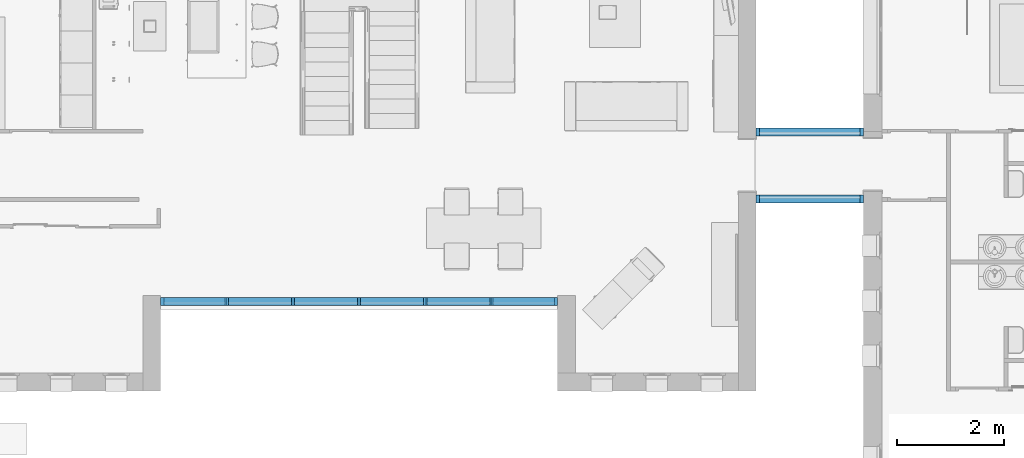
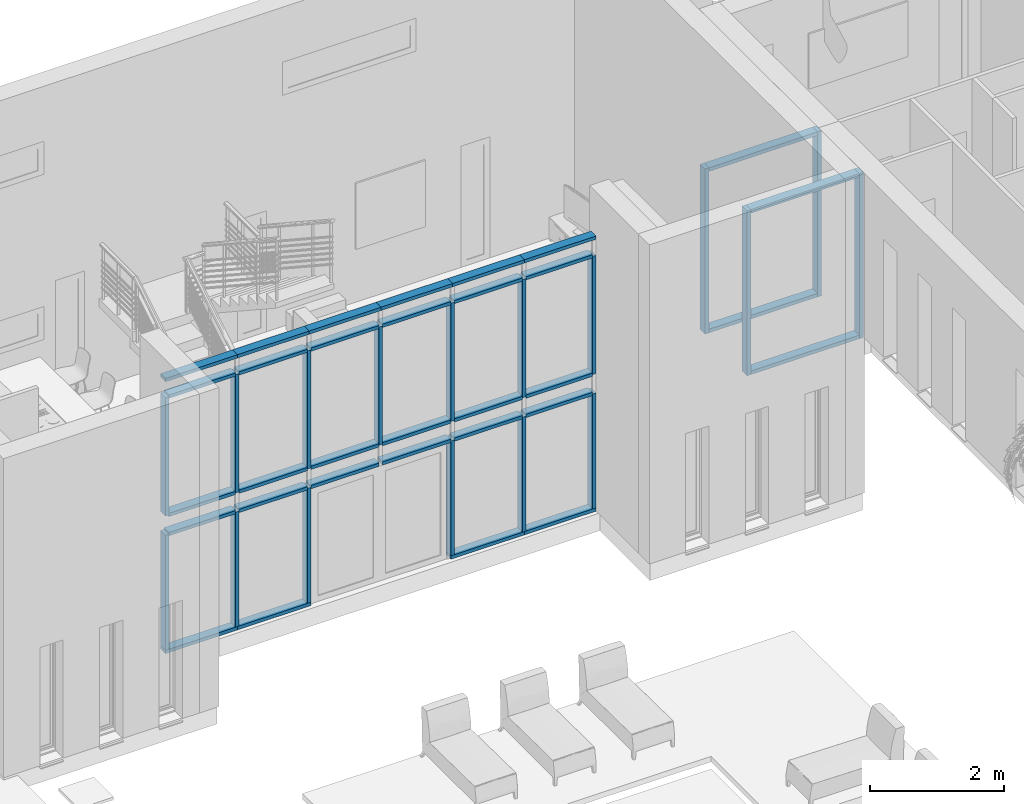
# One storey, part 1 of 40: 49 members, 3 elements without a shape of their own.
"""IFC2X3 building model written with IfcOpenShell, lengths in metres."""

from ifc_helpers import new_model, entity, si_unit, converted_unit, derived_unit, direction, frame, origin, origin_2d_with_axis, place, context, subcontext, project, spatial, rectangle, extrude, source, transform, mapped, material, type_object, type_shapes, element, aggregate, save


model = new_model("IFC2X3")

# Units and contexts
model_context = context("Model", 3, precision=1e-05, world=origin(), true_north=direction((6.12303176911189e-17, 1.0)))
body_context = subcontext(model_context, "Body", "Model", "MODEL_VIEW")
ifc_project = project(units=[si_unit("LENGTHUNIT", "METRE"), si_unit("AREAUNIT", "SQUARE_METRE"), si_unit("VOLUMEUNIT", "CUBIC_METRE"), converted_unit("PLANEANGLEUNIT", "DEGREE", entity("IfcRatioMeasure", 0.0174532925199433), si_unit("PLANEANGLEUNIT", "RADIAN"), dimensions=[0, 0, 0, 0, 0, 0, 0]), si_unit("MASSUNIT", "GRAM", prefix="KILO"), derived_unit("MASSDENSITYUNIT", [(si_unit("MASSUNIT", "GRAM", prefix="KILO"), 1), (si_unit("LENGTHUNIT", "METRE"), -3)]), si_unit("TIMEUNIT", "SECOND"), si_unit("FREQUENCYUNIT", "HERTZ"), si_unit("THERMODYNAMICTEMPERATUREUNIT", "DEGREE_CELSIUS"), derived_unit("THERMALTRANSMITTANCEUNIT", [(si_unit("MASSUNIT", "GRAM", prefix="KILO"), 1), (si_unit("THERMODYNAMICTEMPERATUREUNIT", "KELVIN"), -1), (si_unit("TIMEUNIT", "SECOND"), -3)]), derived_unit("VOLUMETRICFLOWRATEUNIT", [(si_unit("LENGTHUNIT", "METRE"), 3), (si_unit("TIMEUNIT", "SECOND"), -1)]), si_unit("ELECTRICCURRENTUNIT", "AMPERE"), si_unit("ELECTRICVOLTAGEUNIT", "VOLT"), si_unit("POWERUNIT", "WATT"), si_unit("FORCEUNIT", "NEWTON", prefix="KILO"), si_unit("ILLUMINANCEUNIT", "LUX"), si_unit("LUMINOUSFLUXUNIT", "LUMEN"), si_unit("LUMINOUSINTENSITYUNIT", "CANDELA"), derived_unit("USERDEFINED", [(si_unit("MASSUNIT", "GRAM", prefix="KILO"), -1), (si_unit("LENGTHUNIT", "METRE"), -2), (si_unit("TIMEUNIT", "SECOND"), 3), (si_unit("LUMINOUSFLUXUNIT", "LUMEN"), 1)]), derived_unit("LINEARVELOCITYUNIT", [(si_unit("LENGTHUNIT", "METRE"), 1), (si_unit("TIMEUNIT", "SECOND"), -1)]), si_unit("PRESSUREUNIT", "PASCAL"), derived_unit("USERDEFINED", [(si_unit("LENGTHUNIT", "METRE"), -2), (si_unit("MASSUNIT", "GRAM", prefix="KILO"), 1), (si_unit("TIMEUNIT", "SECOND"), -2)])], contexts=[model_context])

# Site, building, storey
site_placement = place(None, origin())
site = spatial("IfcSite", under=ifc_project, at=site_placement, Name="Surface", CompositionType="ELEMENT")
building_placement = place(site_placement, origin())
building = spatial("IfcBuilding", under=site, at=building_placement, CompositionType="ELEMENT")
storey_placement = place(building_placement, origin())
storey = spatial("IfcBuildingStorey", under=building, at=storey_placement, Name="RDC", CompositionType="ELEMENT", Elevation=-1.0941605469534e-13)

# Curtain wall, members
curtain_wall_type_1 = type_object("IfcCurtainWallType", Name="Mur-rideau:Simple panneau", PredefinedType="NOTDEFINED")
curtain_wall_1_placement = place(storey_placement, origin())
curtain_wall_1 = element("IfcCurtainWall", 1, at=curtain_wall_1_placement, inside=storey, type_object=curtain_wall_type_1, Name="Mur-rideau:Simple panneau", ObjectType="Mur-rideau:Simple panneau")
ifc_material = material(Name="Plastique, blanc opaque")
member_type_1 = type_object("IfcMemberType", Name="80 x 150", PredefinedType="MEMBER")
shared_shape_1 = source(origin(), body_context, "Body", "SweptSolid", [
    extrude(rectangle(XDim=0.15, YDim=0.06, at=origin_2d_with_axis()), frame((-0.03, 0.0, -2.15), z_axis=(0.0, 0.0, 1.0), x_axis=(0.0, -1.0, 0.0)), (0.0, 0.0, 1.0), 2.15),
])
type_shapes(member_type_1, [shared_shape_1])
member_1_placement = place(storey_placement, frame((-1.3024888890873, 1.13701067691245, 4.64999999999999), z_axis=(0.0, 0.0, 1.0), x_axis=(-1.0, 0.0, 0.0)))
member_1 = element("IfcMember", 2, at=member_1_placement, type_object=member_type_1, material=ifc_material, Name="Meneau rectangulaire:80 x 150", ObjectType="80 x 150", context=body_context, shape_type="MappedRepresentation", body=[
    mapped(shared_shape_1, transform((0.0, 0.0, 0.0), scale=1.0)),
])
member_type_2 = type_object("IfcMemberType", Name="80 x 150", PredefinedType="MEMBER")
shared_shape_2 = source(origin(), body_context, "Body", "SweptSolid", [
    extrude(rectangle(XDim=0.15, YDim=0.06, at=origin_2d_with_axis()), frame((-0.03, 0.0, -2.09), z_axis=(0.0, 0.0, 1.0), x_axis=(0.0, -1.0, 0.0)), (0.0, 0.0, 1.0), 2.09),
])
type_shapes(member_type_2, [shared_shape_2])
member_2_placement = place(storey_placement, frame((-1.3024888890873, 1.13701067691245, 2.14999999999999), z_axis=(0.0, 0.0, 1.0), x_axis=(-1.0, 0.0, 0.0)))
member_2 = element("IfcMember", 3, at=member_2_placement, type_object=member_type_2, material=ifc_material, Name="Meneau rectangulaire:80 x 150", ObjectType="80 x 150", context=body_context, shape_type="MappedRepresentation", body=[
    mapped(shared_shape_2, transform((0.0, 0.0, 0.0), scale=1.0)),
])
member_type_3 = type_object("IfcMemberType", Name="80 x 150", PredefinedType="MEMBER")
shared_shape_3 = source(origin(), body_context, "Body", "SweptSolid", [
    extrude(rectangle(XDim=0.15, YDim=0.06, at=origin_2d_with_axis()), frame((0.0, 0.0, -2.15), z_axis=(0.0, 0.0, 1.0), x_axis=(0.0, -1.0, 0.0)), (0.0, 0.0, 1.0), 2.15),
])
type_shapes(member_type_3, [shared_shape_3])
member_3_placement = place(storey_placement, frame((-0.0691555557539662, 1.13701067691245, 2.49999999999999), z_axis=(0.0, 0.0, -1.0), x_axis=(1.0, 0.0, 0.0)))
member_3 = element("IfcMember", 4, at=member_3_placement, type_object=member_type_3, material=ifc_material, Name="Meneau rectangulaire:80 x 150", ObjectType="80 x 150", context=body_context, shape_type="MappedRepresentation", body=[
    mapped(shared_shape_3, transform((0.0, 0.0, 0.0), scale=1.0)),
])
member_4_placement = place(storey_placement, frame((1.16417777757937, 1.13701067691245, 2.49999999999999), z_axis=(0.0, 0.0, -1.0), x_axis=(1.0, 0.0, 0.0)))
member_4 = element("IfcMember", 5, at=member_4_placement, type_object=member_type_3, material=ifc_material, Name="Meneau rectangulaire:80 x 150", ObjectType="80 x 150", context=body_context, shape_type="MappedRepresentation", body=[
    mapped(shared_shape_3, transform((0.0, 0.0, 0.0), scale=1.0)),
])
member_5_placement = place(storey_placement, frame((2.3975111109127, 1.13701067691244, 2.49999999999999), z_axis=(0.0, 0.0, -1.0), x_axis=(1.0, 0.0, 0.0)))
member_5 = element("IfcMember", 6, at=member_5_placement, type_object=member_type_3, material=ifc_material, Name="Meneau rectangulaire:80 x 150", ObjectType="80 x 150", context=body_context, shape_type="MappedRepresentation", body=[
    mapped(shared_shape_3, transform((0.0, 0.0, 0.0), scale=1.0)),
])
member_6_placement = place(storey_placement, frame((3.63084444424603, 1.13701067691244, 2.49999999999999), z_axis=(0.0, 0.0, -1.0), x_axis=(1.0, 0.0, 0.0)))
member_6 = element("IfcMember", 7, at=member_6_placement, type_object=member_type_3, material=ifc_material, Name="Meneau rectangulaire:80 x 150", ObjectType="80 x 150", context=body_context, shape_type="MappedRepresentation", body=[
    mapped(shared_shape_3, transform((0.0, 0.0, 0.0), scale=1.0)),
])
member_7_placement = place(storey_placement, frame((4.86417777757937, 1.13701067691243, 2.49999999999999), z_axis=(0.0, 0.0, -1.0), x_axis=(1.0, 0.0, 0.0)))
member_7 = element("IfcMember", 8, at=member_7_placement, type_object=member_type_3, material=ifc_material, Name="Meneau rectangulaire:80 x 150", ObjectType="80 x 150", context=body_context, shape_type="MappedRepresentation", body=[
    mapped(shared_shape_3, transform((0.0, 0.0, 0.0), scale=1.0)),
])
member_type_4 = type_object("IfcMemberType", Name="80 x 150", PredefinedType="MEMBER")
shared_shape_4 = source(origin(), body_context, "Body", "SweptSolid", [
    extrude(rectangle(XDim=0.15, YDim=0.06, at=origin_2d_with_axis()), frame((0.0, 0.0, -2.09), z_axis=(0.0, 0.0, 1.0), x_axis=(0.0, -1.0, 0.0)), (0.0, 0.0, 1.0), 2.09),
])
type_shapes(member_type_4, [shared_shape_4])
member_8_placement = place(storey_placement, frame((-0.0691555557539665, 1.13701067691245, 0.0599999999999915), z_axis=(0.0, 0.0, -1.0), x_axis=(1.0, 0.0, 0.0)))
member_8 = element("IfcMember", 9, at=member_8_placement, type_object=member_type_4, material=ifc_material, Name="Meneau rectangulaire:80 x 150", ObjectType="80 x 150", context=body_context, shape_type="MappedRepresentation", body=[
    mapped(shared_shape_4, transform((0.0, 0.0, 0.0), scale=1.0)),
])
member_9_placement = place(storey_placement, frame((1.16417777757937, 1.13701067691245, 0.0599999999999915), z_axis=(0.0, 0.0, -1.0), x_axis=(1.0, 0.0, 0.0)))
member_9 = element("IfcMember", 10, at=member_9_placement, type_object=member_type_4, material=ifc_material, Name="Meneau rectangulaire:80 x 150", ObjectType="80 x 150", context=body_context, shape_type="MappedRepresentation", body=[
    mapped(shared_shape_4, transform((0.0, 0.0, 0.0), scale=1.0)),
])
member_10_placement = place(storey_placement, frame((3.63084444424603, 1.13701067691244, 0.0599999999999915), z_axis=(0.0, 0.0, -1.0), x_axis=(1.0, 0.0, 0.0)))
member_10 = element("IfcMember", 11, at=member_10_placement, type_object=member_type_4, material=ifc_material, Name="Meneau rectangulaire:80 x 150", ObjectType="80 x 150", context=body_context, shape_type="MappedRepresentation", body=[
    mapped(shared_shape_4, transform((0.0, 0.0, 0.0), scale=1.0)),
])
member_11_placement = place(storey_placement, frame((4.86417777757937, 1.13701067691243, 0.0599999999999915), z_axis=(0.0, 0.0, -1.0), x_axis=(1.0, 0.0, 0.0)))
member_11 = element("IfcMember", 12, at=member_11_placement, type_object=member_type_4, material=ifc_material, Name="Meneau rectangulaire:80 x 150", ObjectType="80 x 150", context=body_context, shape_type="MappedRepresentation", body=[
    mapped(shared_shape_4, transform((0.0, 0.0, 0.0), scale=1.0)),
])
member_type_5 = type_object("IfcMemberType", Name="80 x 150", PredefinedType="MEMBER")
shared_shape_5 = source(origin(), body_context, "Body", "SweptSolid", [
    extrude(rectangle(XDim=0.15, YDim=0.06, at=origin_2d_with_axis()), frame((-0.03, 0.0, -2.15), z_axis=(0.0, 0.0, 1.0), x_axis=(0.0, -1.0, 0.0)), (0.0, 0.0, 1.0), 2.15),
])
type_shapes(member_type_5, [shared_shape_5])
member_12_placement = place(storey_placement, frame((6.0975111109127, 1.13701067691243, 2.49999999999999), z_axis=(0.0, 0.0, -1.0), x_axis=(1.0, 0.0, 0.0)))
member_12 = element("IfcMember", 13, at=member_12_placement, type_object=member_type_5, material=ifc_material, Name="Meneau rectangulaire:80 x 150", ObjectType="80 x 150", context=body_context, shape_type="MappedRepresentation", body=[
    mapped(shared_shape_5, transform((0.0, 0.0, 0.0), scale=1.0)),
])
member_type_6 = type_object("IfcMemberType", Name="80 x 150", PredefinedType="MEMBER")
shared_shape_6 = source(origin(), body_context, "Body", "SweptSolid", [
    extrude(rectangle(XDim=0.15, YDim=0.06, at=origin_2d_with_axis()), frame((-0.03, 0.0, -2.09), z_axis=(0.0, 0.0, 1.0), x_axis=(0.0, -1.0, 0.0)), (0.0, 0.0, 1.0), 2.09),
])
type_shapes(member_type_6, [shared_shape_6])
member_13_placement = place(storey_placement, frame((6.0975111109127, 1.13701067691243, 0.0599999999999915), z_axis=(0.0, 0.0, -1.0), x_axis=(1.0, 0.0, 0.0)))
member_13 = element("IfcMember", 14, at=member_13_placement, type_object=member_type_6, material=ifc_material, Name="Meneau rectangulaire:80 x 150", ObjectType="80 x 150", context=body_context, shape_type="MappedRepresentation", body=[
    mapped(shared_shape_6, transform((0.0, 0.0, 0.0), scale=1.0)),
])
member_type_7 = type_object("IfcMemberType", Name="80 x 150", PredefinedType="MEMBER")
shared_shape_7 = source(origin(), body_context, "Body", "SweptSolid", [
    extrude(rectangle(XDim=0.15, YDim=0.06, at=origin_2d_with_axis()), frame((-0.03, 0.0, -1.23333333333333), z_axis=(0.0, 0.0, 1.0), x_axis=(0.0, -1.0, 0.0)), (0.0, 0.0, 1.0), 1.23333333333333),
])
type_shapes(member_type_7, [shared_shape_7])
member_14_placement = place(storey_placement, frame((2.3975111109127, 1.13701067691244, 5.0), z_axis=(1.0, 0.0, 0.0), x_axis=(0.0, 0.0, 1.0)))
member_14 = element("IfcMember", 15, at=member_14_placement, type_object=member_type_7, material=ifc_material, Name="Meneau rectangulaire:80 x 150", ObjectType="80 x 150", context=body_context, shape_type="MappedRepresentation", body=[
    mapped(shared_shape_7, transform((0.0, 0.0, 0.0), scale=1.0)),
])
member_15_placement = place(storey_placement, frame((4.86417777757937, 1.13701067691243, 5.0), z_axis=(1.0, 0.0, 0.0), x_axis=(0.0, 0.0, 1.0)))
member_15 = element("IfcMember", 16, at=member_15_placement, type_object=member_type_7, material=ifc_material, Name="Meneau rectangulaire:80 x 150", ObjectType="80 x 150", context=body_context, shape_type="MappedRepresentation", body=[
    mapped(shared_shape_7, transform((0.0, 0.0, 0.0), scale=1.0)),
])
member_16_placement = place(storey_placement, frame((3.63084444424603, 1.13701067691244, 5.0), z_axis=(1.0, 0.0, 0.0), x_axis=(0.0, 0.0, 1.0)))
member_16 = element("IfcMember", 17, at=member_16_placement, type_object=member_type_7, material=ifc_material, Name="Meneau rectangulaire:80 x 150", ObjectType="80 x 150", context=body_context, shape_type="MappedRepresentation", body=[
    mapped(shared_shape_7, transform((0.0, 0.0, 0.0), scale=1.0)),
])
member_17_placement = place(storey_placement, frame((1.16417777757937, 1.13701067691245, 5.0), z_axis=(1.0, 0.0, 0.0), x_axis=(0.0, 0.0, 1.0)))
member_17 = element("IfcMember", 18, at=member_17_placement, type_object=member_type_7, material=ifc_material, Name="Meneau rectangulaire:80 x 150", ObjectType="80 x 150", context=body_context, shape_type="MappedRepresentation", body=[
    mapped(shared_shape_7, transform((0.0, 0.0, 0.0), scale=1.0)),
])
member_type_8 = type_object("IfcMemberType", Name="80 x 150", PredefinedType="MEMBER")
shared_shape_8 = source(origin(), body_context, "Body", "SweptSolid", [
    extrude(rectangle(XDim=0.15, YDim=0.06, at=origin_2d_with_axis()), frame((-0.03, 0.0, -1.23333333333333), z_axis=(0.0, 0.0, 1.0), x_axis=(0.0, -1.0, 0.0)), (0.0, 0.0, 1.0), 1.23333333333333),
])
type_shapes(member_type_8, [shared_shape_8])
member_18_placement = place(storey_placement, frame((-0.0691555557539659, 1.13701067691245, 5.0), z_axis=(1.0, 0.0, 0.0), x_axis=(0.0, 0.0, 1.0)))
member_18 = element("IfcMember", 19, at=member_18_placement, type_object=member_type_8, material=ifc_material, Name="Meneau rectangulaire:80 x 150", ObjectType="80 x 150", context=body_context, shape_type="MappedRepresentation", body=[
    mapped(shared_shape_8, transform((0.0, 0.0, 0.0), scale=1.0)),
])
member_type_9 = type_object("IfcMemberType", Name="80 x 150", PredefinedType="MEMBER")
shared_shape_9 = source(origin(), body_context, "Body", "SweptSolid", [
    extrude(rectangle(XDim=0.15, YDim=0.06, at=origin_2d_with_axis()), frame((-0.03, 0.0, -1.23333333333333), z_axis=(0.0, 0.0, 1.0), x_axis=(0.0, -1.0, 0.0)), (0.0, 0.0, 1.0), 1.23333333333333),
])
type_shapes(member_type_9, [shared_shape_9])
member_19_placement = place(storey_placement, frame((6.0975111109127, 1.13701067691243, 5.0), z_axis=(1.0, 0.0, 0.0), x_axis=(0.0, 0.0, 1.0)))
member_19 = element("IfcMember", 20, at=member_19_placement, type_object=member_type_9, material=ifc_material, Name="Meneau rectangulaire:80 x 150", ObjectType="80 x 150", context=body_context, shape_type="MappedRepresentation", body=[
    mapped(shared_shape_9, transform((0.0, 0.0, 0.0), scale=1.0)),
])
member_type_10 = type_object("IfcMemberType", Name="80 x 150", PredefinedType="MEMBER")
shared_shape_10 = source(origin(), body_context, "Body", "SweptSolid", [
    extrude(rectangle(XDim=0.15, YDim=0.06, at=origin_2d_with_axis()), frame((0.0, 0.0, -1.17333333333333), z_axis=(0.0, 0.0, 1.0), x_axis=(0.0, -1.0, 0.0)), (0.0, 0.0, 1.0), 1.17333333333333),
])
type_shapes(member_type_10, [shared_shape_10])
member_20_placement = place(storey_placement, frame((3.60084444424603, 1.13701067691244, 4.64999999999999), z_axis=(1.0, 0.0, 0.0), x_axis=(0.0, 0.0, 1.0)))
member_20 = element("IfcMember", 21, at=member_20_placement, type_object=member_type_10, material=ifc_material, Name="Meneau rectangulaire:80 x 150", ObjectType="80 x 150", context=body_context, shape_type="MappedRepresentation", body=[
    mapped(shared_shape_10, transform((0.0, 0.0, 0.0), scale=1.0)),
])
member_21_placement = place(storey_placement, frame((1.13417777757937, 1.13701067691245, 4.64999999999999), z_axis=(1.0, 0.0, 0.0), x_axis=(0.0, 0.0, 1.0)))
member_21 = element("IfcMember", 22, at=member_21_placement, type_object=member_type_10, material=ifc_material, Name="Meneau rectangulaire:80 x 150", ObjectType="80 x 150", context=body_context, shape_type="MappedRepresentation", body=[
    mapped(shared_shape_10, transform((0.0, 0.0, 0.0), scale=1.0)),
])
member_22_placement = place(storey_placement, frame((4.83417777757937, 1.13701067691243, 4.64999999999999), z_axis=(1.0, 0.0, 0.0), x_axis=(0.0, 0.0, 1.0)))
member_22 = element("IfcMember", 23, at=member_22_placement, type_object=member_type_10, material=ifc_material, Name="Meneau rectangulaire:80 x 150", ObjectType="80 x 150", context=body_context, shape_type="MappedRepresentation", body=[
    mapped(shared_shape_10, transform((0.0, 0.0, 0.0), scale=1.0)),
])
member_23_placement = place(storey_placement, frame((2.3675111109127, 1.13701067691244, 4.64999999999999), z_axis=(1.0, 0.0, 0.0), x_axis=(0.0, 0.0, 1.0)))
member_23 = element("IfcMember", 24, at=member_23_placement, type_object=member_type_10, material=ifc_material, Name="Meneau rectangulaire:80 x 150", ObjectType="80 x 150", context=body_context, shape_type="MappedRepresentation", body=[
    mapped(shared_shape_10, transform((0.0, 0.0, 0.0), scale=1.0)),
])
member_24_placement = place(storey_placement, frame((3.60084444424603, 1.13701067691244, 2.49999999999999), z_axis=(1.0, 0.0, 0.0), x_axis=(0.0, 0.0, 1.0)))
member_24 = element("IfcMember", 25, at=member_24_placement, type_object=member_type_10, material=ifc_material, Name="Meneau rectangulaire:80 x 150", ObjectType="80 x 150", context=body_context, shape_type="MappedRepresentation", body=[
    mapped(shared_shape_10, transform((0.0, 0.0, 0.0), scale=1.0)),
])
member_25_placement = place(storey_placement, frame((1.13417777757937, 1.13701067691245, 2.49999999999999), z_axis=(1.0, 0.0, 0.0), x_axis=(0.0, 0.0, 1.0)))
member_25 = element("IfcMember", 26, at=member_25_placement, type_object=member_type_10, material=ifc_material, Name="Meneau rectangulaire:80 x 150", ObjectType="80 x 150", context=body_context, shape_type="MappedRepresentation", body=[
    mapped(shared_shape_10, transform((0.0, 0.0, 0.0), scale=1.0)),
])
member_26_placement = place(storey_placement, frame((4.83417777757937, 1.13701067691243, 2.49999999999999), z_axis=(1.0, 0.0, 0.0), x_axis=(0.0, 0.0, 1.0)))
member_26 = element("IfcMember", 27, at=member_26_placement, type_object=member_type_10, material=ifc_material, Name="Meneau rectangulaire:80 x 150", ObjectType="80 x 150", context=body_context, shape_type="MappedRepresentation", body=[
    mapped(shared_shape_10, transform((0.0, 0.0, 0.0), scale=1.0)),
])
member_27_placement = place(storey_placement, frame((2.3675111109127, 1.13701067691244, 2.49999999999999), z_axis=(1.0, 0.0, 0.0), x_axis=(0.0, 0.0, 1.0)))
member_27 = element("IfcMember", 28, at=member_27_placement, type_object=member_type_10, material=ifc_material, Name="Meneau rectangulaire:80 x 150", ObjectType="80 x 150", context=body_context, shape_type="MappedRepresentation", body=[
    mapped(shared_shape_10, transform((0.0, 0.0, 0.0), scale=1.0)),
])
member_28_placement = place(storey_placement, frame((3.60084444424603, 1.13701067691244, 2.14999999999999), z_axis=(1.0, 0.0, 0.0), x_axis=(0.0, 0.0, 1.0)))
member_28 = element("IfcMember", 29, at=member_28_placement, type_object=member_type_10, material=ifc_material, Name="Meneau rectangulaire:80 x 150", ObjectType="80 x 150", context=body_context, shape_type="MappedRepresentation", body=[
    mapped(shared_shape_10, transform((0.0, 0.0, 0.0), scale=1.0)),
])
member_29_placement = place(storey_placement, frame((1.13417777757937, 1.13701067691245, 2.14999999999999), z_axis=(1.0, 0.0, 0.0), x_axis=(0.0, 0.0, 1.0)))
member_29 = element("IfcMember", 30, at=member_29_placement, type_object=member_type_10, material=ifc_material, Name="Meneau rectangulaire:80 x 150", ObjectType="80 x 150", context=body_context, shape_type="MappedRepresentation", body=[
    mapped(shared_shape_10, transform((0.0, 0.0, 0.0), scale=1.0)),
])
member_30_placement = place(storey_placement, frame((4.83417777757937, 1.13701067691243, 2.14999999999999), z_axis=(1.0, 0.0, 0.0), x_axis=(0.0, 0.0, 1.0)))
member_30 = element("IfcMember", 31, at=member_30_placement, type_object=member_type_10, material=ifc_material, Name="Meneau rectangulaire:80 x 150", ObjectType="80 x 150", context=body_context, shape_type="MappedRepresentation", body=[
    mapped(shared_shape_10, transform((0.0, 0.0, 0.0), scale=1.0)),
])
member_31_placement = place(storey_placement, frame((2.3675111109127, 1.13701067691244, 2.14999999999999), z_axis=(1.0, 0.0, 0.0), x_axis=(0.0, 0.0, 1.0)))
member_31 = element("IfcMember", 32, at=member_31_placement, type_object=member_type_10, material=ifc_material, Name="Meneau rectangulaire:80 x 150", ObjectType="80 x 150", context=body_context, shape_type="MappedRepresentation", body=[
    mapped(shared_shape_10, transform((0.0, 0.0, 0.0), scale=1.0)),
])
member_type_11 = type_object("IfcMemberType", Name="80 x 150", PredefinedType="MEMBER")
shared_shape_11 = source(origin(), body_context, "Body", "SweptSolid", [
    extrude(rectangle(XDim=0.15, YDim=0.06, at=origin_2d_with_axis()), frame((0.0, 0.0, -1.14333333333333), z_axis=(0.0, 0.0, 1.0), x_axis=(0.0, -1.0, 0.0)), (0.0, 0.0, 1.0), 1.14333333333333),
])
type_shapes(member_type_11, [shared_shape_11])
member_32_placement = place(storey_placement, frame((6.0375111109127, 1.13701067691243, 4.64999999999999), z_axis=(1.0, 0.0, 0.0), x_axis=(0.0, 0.0, 1.0)))
member_32 = element("IfcMember", 33, at=member_32_placement, type_object=member_type_11, material=ifc_material, Name="Meneau rectangulaire:80 x 150", ObjectType="80 x 150", context=body_context, shape_type="MappedRepresentation", body=[
    mapped(shared_shape_11, transform((0.0, 0.0, 0.0), scale=1.0)),
])
member_33_placement = place(storey_placement, frame((-0.0991555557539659, 1.13701067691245, 4.64999999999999), z_axis=(1.0, 0.0, 0.0), x_axis=(0.0, 0.0, 1.0)))
member_33 = element("IfcMember", 34, at=member_33_placement, type_object=member_type_11, material=ifc_material, Name="Meneau rectangulaire:80 x 150", ObjectType="80 x 150", context=body_context, shape_type="MappedRepresentation", body=[
    mapped(shared_shape_11, transform((0.0, 0.0, 0.0), scale=1.0)),
])
member_34_placement = place(storey_placement, frame((6.0375111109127, 1.13701067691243, 2.49999999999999), z_axis=(1.0, 0.0, 0.0), x_axis=(0.0, 0.0, 1.0)))
member_34 = element("IfcMember", 35, at=member_34_placement, type_object=member_type_11, material=ifc_material, Name="Meneau rectangulaire:80 x 150", ObjectType="80 x 150", context=body_context, shape_type="MappedRepresentation", body=[
    mapped(shared_shape_11, transform((0.0, 0.0, 0.0), scale=1.0)),
])
member_35_placement = place(storey_placement, frame((-0.0991555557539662, 1.13701067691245, 2.49999999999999), z_axis=(1.0, 0.0, 0.0), x_axis=(0.0, 0.0, 1.0)))
member_35 = element("IfcMember", 36, at=member_35_placement, type_object=member_type_11, material=ifc_material, Name="Meneau rectangulaire:80 x 150", ObjectType="80 x 150", context=body_context, shape_type="MappedRepresentation", body=[
    mapped(shared_shape_11, transform((0.0, 0.0, 0.0), scale=1.0)),
])
member_36_placement = place(storey_placement, frame((6.0375111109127, 1.13701067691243, 2.14999999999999), z_axis=(1.0, 0.0, 0.0), x_axis=(0.0, 0.0, 1.0)))
member_36 = element("IfcMember", 37, at=member_36_placement, type_object=member_type_11, material=ifc_material, Name="Meneau rectangulaire:80 x 150", ObjectType="80 x 150", context=body_context, shape_type="MappedRepresentation", body=[
    mapped(shared_shape_11, transform((0.0, 0.0, 0.0), scale=1.0)),
])
member_37_placement = place(storey_placement, frame((-0.0991555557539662, 1.13701067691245, 2.14999999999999), z_axis=(1.0, 0.0, 0.0), x_axis=(0.0, 0.0, 1.0)))
member_37 = element("IfcMember", 38, at=member_37_placement, type_object=member_type_11, material=ifc_material, Name="Meneau rectangulaire:80 x 150", ObjectType="80 x 150", context=body_context, shape_type="MappedRepresentation", body=[
    mapped(shared_shape_11, transform((0.0, 0.0, 0.0), scale=1.0)),
])
member_type_12 = type_object("IfcMemberType", Name="80 x 150", PredefinedType="MEMBER")
shared_shape_12 = source(origin(), body_context, "Body", "SweptSolid", [
    extrude(rectangle(XDim=0.15, YDim=0.06, at=origin_2d_with_axis()), frame((-0.03, 0.0, -1.23333333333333), z_axis=(0.0, 0.0, 1.0), x_axis=(0.0, -1.0, 0.0)), (0.0, 0.0, 1.0), 1.23333333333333),
])
type_shapes(member_type_12, [shared_shape_12])
member_38_placement = place(storey_placement, frame((4.86417777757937, 1.13701067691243, 0.0), z_axis=(-1.0, 0.0, 0.0), x_axis=(0.0, 0.0, -1.0)))
member_38 = element("IfcMember", 39, at=member_38_placement, type_object=member_type_12, material=ifc_material, Name="Meneau rectangulaire:80 x 150", ObjectType="80 x 150", context=body_context, shape_type="MappedRepresentation", body=[
    mapped(shared_shape_12, transform((0.0, 0.0, 0.0), scale=1.0)),
])
member_type_13 = type_object("IfcMemberType", Name="80 x 150", PredefinedType="MEMBER")
shared_shape_13 = source(origin(), body_context, "Body", "SweptSolid", [
    extrude(rectangle(XDim=0.15, YDim=0.06, at=origin_2d_with_axis()), frame((-0.03, 0.0, -1.26333333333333), z_axis=(0.0, 0.0, 1.0), x_axis=(0.0, -1.0, 0.0)), (0.0, 0.0, 1.0), 1.26333333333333),
])
type_shapes(member_type_13, [shared_shape_13])
member_39_placement = place(storey_placement, frame((-0.0691555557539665, 1.13701067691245, 0.0), z_axis=(-1.0, 0.0, 0.0), x_axis=(0.0, 0.0, -1.0)))
member_39 = element("IfcMember", 40, at=member_39_placement, type_object=member_type_13, material=ifc_material, Name="Meneau rectangulaire:80 x 150", ObjectType="80 x 150", context=body_context, shape_type="MappedRepresentation", body=[
    mapped(shared_shape_13, transform((0.0, 0.0, 0.0), scale=1.0)),
])
member_type_14 = type_object("IfcMemberType", Name="80 x 150", PredefinedType="MEMBER")
shared_shape_14 = source(origin(), body_context, "Body", "SweptSolid", [
    extrude(rectangle(XDim=0.15, YDim=0.06, at=origin_2d_with_axis()), frame((-0.03, 0.0, -1.26333333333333), z_axis=(0.0, 0.0, 1.0), x_axis=(0.0, -1.0, 0.0)), (0.0, 0.0, 1.0), 1.26333333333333),
])
type_shapes(member_type_14, [shared_shape_14])
member_40_placement = place(storey_placement, frame((3.60084444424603, 1.13701067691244, 0.0), z_axis=(-1.0, 0.0, 0.0), x_axis=(0.0, 0.0, -1.0)))
member_40 = element("IfcMember", 41, at=member_40_placement, type_object=member_type_14, material=ifc_material, Name="Meneau rectangulaire:80 x 150", ObjectType="80 x 150", context=body_context, shape_type="MappedRepresentation", body=[
    mapped(shared_shape_14, transform((0.0, 0.0, 0.0), scale=1.0)),
])
member_type_15 = type_object("IfcMemberType", Name="80 x 150", PredefinedType="MEMBER")
shared_shape_15 = source(origin(), body_context, "Body", "SweptSolid", [
    extrude(rectangle(XDim=0.15, YDim=0.06, at=origin_2d_with_axis()), frame((-0.03, 0.0, -1.23333333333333), z_axis=(0.0, 0.0, 1.0), x_axis=(0.0, -1.0, 0.0)), (0.0, 0.0, 1.0), 1.23333333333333),
])
type_shapes(member_type_15, [shared_shape_15])
member_41_placement = place(storey_placement, frame((-1.3024888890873, 1.13701067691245, 0.0), z_axis=(-1.0, 0.0, 0.0), x_axis=(0.0, 0.0, -1.0)))
member_41 = element("IfcMember", 42, at=member_41_placement, type_object=member_type_15, material=ifc_material, Name="Meneau rectangulaire:80 x 150", ObjectType="80 x 150", context=body_context, shape_type="MappedRepresentation", body=[
    mapped(shared_shape_15, transform((0.0, 0.0, 0.0), scale=1.0)),
])
aggregate(curtain_wall_1, [member_1, member_2, member_3, member_8, member_4, member_9, member_5, member_6, member_10, member_7, member_11, member_12, member_13, member_14, member_15, member_18, member_16, member_17, member_19, member_20, member_32, member_21, member_22, member_23, member_33, member_24, member_34, member_25, member_26, member_27, member_35, member_28, member_36, member_29, member_30, member_31, member_37, member_38, member_39, member_40, member_41])

curtain_wall_type_2 = type_object("IfcCurtainWallType", Name="Mur-rideau:Simple panneau 2", PredefinedType="NOTDEFINED")
curtain_wall_2_placement = place(storey_placement, origin())
curtain_wall_2 = element("IfcCurtainWall", 43, at=curtain_wall_2_placement, inside=storey, type_object=curtain_wall_type_2, Name="Mur-rideau:Simple panneau 2", ObjectType="Mur-rideau:Simple panneau 2")
member_type_16 = type_object("IfcMemberType", Name="60 x 120", PredefinedType="MEMBER")
shared_shape_16 = source(origin(), body_context, "Body", "SweptSolid", [
    extrude(rectangle(XDim=0.15, YDim=0.066, at=origin_2d_with_axis()), frame((-0.033, 0.0, -3.0), z_axis=(0.0, 0.0, 1.0), x_axis=(0.0, -1.0, 0.0)), (0.0, 0.0, 1.0), 2.99999999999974),
])
type_shapes(member_type_16, [shared_shape_16])
member_42_placement = place(storey_placement, frame((9.7975111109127, 3.05201067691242, 3.0), z_axis=(0.0, 0.0, 1.0), x_axis=(-1.0, 0.0, 0.0)))
member_42 = element("IfcMember", 44, at=member_42_placement, type_object=member_type_16, material=ifc_material, Name="Meneau rectangulaire:60 x 120", ObjectType="60 x 120", context=body_context, shape_type="MappedRepresentation", body=[
    mapped(shared_shape_16, transform((0.0, 0.0, 0.0), scale=1.0)),
])
member_type_17 = type_object("IfcMemberType", Name="60 x 120", PredefinedType="MEMBER")
shared_shape_17 = source(origin(), body_context, "Body", "SweptSolid", [
    extrude(rectangle(XDim=0.15, YDim=0.066, at=origin_2d_with_axis()), frame((-0.033, 0.0, -3.0), z_axis=(0.0, 0.0, 1.0), x_axis=(0.0, -1.0, 0.0)), (0.0, 0.0, 1.0), 2.99999999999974),
])
type_shapes(member_type_17, [shared_shape_17])
member_43_placement = place(storey_placement, frame((11.7975111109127, 3.05201067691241, 0.0), z_axis=(0.0, 0.0, -1.0), x_axis=(1.0, 0.0, 0.0)))
member_43 = element("IfcMember", 45, at=member_43_placement, type_object=member_type_17, material=ifc_material, Name="Meneau rectangulaire:60 x 120", ObjectType="60 x 120", context=body_context, shape_type="MappedRepresentation", body=[
    mapped(shared_shape_17, transform((0.0, 0.0, 0.0), scale=1.0)),
])
member_type_18 = type_object("IfcMemberType", Name="60 x 120", PredefinedType="MEMBER")
shared_shape_18 = source(origin(), body_context, "Body", "SweptSolid", [
    extrude(rectangle(XDim=0.15, YDim=0.066, at=origin_2d_with_axis()), frame((-0.033, 0.0, -1.868), z_axis=(0.0, 0.0, 1.0), x_axis=(0.0, -1.0, 0.0)), (0.0, 0.0, 1.0), 1.868),
])
type_shapes(member_type_18, [shared_shape_18])
member_44_placement = place(storey_placement, frame((11.7315111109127, 3.05201067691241, 3.0), z_axis=(1.0, 0.0, 0.0), x_axis=(0.0, 0.0, 1.0)))
member_44 = element("IfcMember", 46, at=member_44_placement, type_object=member_type_18, material=ifc_material, Name="Meneau rectangulaire:60 x 120", ObjectType="60 x 120", context=body_context, shape_type="MappedRepresentation", body=[
    mapped(shared_shape_18, transform((0.0, 0.0, 0.0), scale=1.0)),
])
member_type_19 = type_object("IfcMemberType", Name="60 x 120", PredefinedType="MEMBER")
shared_shape_19 = source(origin(), body_context, "Body", "SweptSolid", [
    extrude(rectangle(XDim=0.15, YDim=0.066, at=origin_2d_with_axis()), frame((-0.033, 0.0, -1.868), z_axis=(0.0, 0.0, 1.0), x_axis=(0.0, -1.0, 0.0)), (0.0, 0.0, 1.0), 1.868),
])
type_shapes(member_type_19, [shared_shape_19])
member_45_placement = place(storey_placement, frame((9.8635111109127, 3.05201067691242, 0.0), z_axis=(-1.0, 0.0, 0.0), x_axis=(0.0, 0.0, -1.0)))
member_45 = element("IfcMember", 47, at=member_45_placement, type_object=member_type_19, material=ifc_material, Name="Meneau rectangulaire:60 x 120", ObjectType="60 x 120", context=body_context, shape_type="MappedRepresentation", body=[
    mapped(shared_shape_19, transform((0.0, 0.0, 0.0), scale=1.0)),
])
aggregate(curtain_wall_2, [member_42, member_43, member_44, member_45])

curtain_wall_3_placement = place(storey_placement, origin())
curtain_wall_3 = element("IfcCurtainWall", 48, at=curtain_wall_3_placement, inside=storey, type_object=curtain_wall_type_2, Name="Mur-rideau:Simple panneau 2", ObjectType="Mur-rideau:Simple panneau 2")
member_type_20 = type_object("IfcMemberType", Name="60 x 120", PredefinedType="MEMBER")
shared_shape_20 = source(origin(), body_context, "Body", "SweptSolid", [
    extrude(rectangle(XDim=0.15, YDim=0.066, at=origin_2d_with_axis()), frame((-0.033, 0.0, -3.0), z_axis=(0.0, 0.0, 1.0), x_axis=(0.0, -1.0, 0.0)), (0.0, 0.0, 1.0), 2.99999999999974),
])
type_shapes(member_type_20, [shared_shape_20])
member_46_placement = place(storey_placement, frame((9.79751111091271, 4.30201067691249, 3.0), z_axis=(0.0, 0.0, 1.0), x_axis=(-1.0, 0.0, 0.0)))
member_46 = element("IfcMember", 49, at=member_46_placement, type_object=member_type_20, material=ifc_material, Name="Meneau rectangulaire:60 x 120", ObjectType="60 x 120", context=body_context, shape_type="MappedRepresentation", body=[
    mapped(shared_shape_20, transform((0.0, 0.0, 0.0), scale=1.0)),
])
member_type_21 = type_object("IfcMemberType", Name="60 x 120", PredefinedType="MEMBER")
shared_shape_21 = source(origin(), body_context, "Body", "SweptSolid", [
    extrude(rectangle(XDim=0.15, YDim=0.066, at=origin_2d_with_axis()), frame((-0.033, 0.0, -3.0), z_axis=(0.0, 0.0, 1.0), x_axis=(0.0, -1.0, 0.0)), (0.0, 0.0, 1.0), 2.99999999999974),
])
type_shapes(member_type_21, [shared_shape_21])
member_47_placement = place(storey_placement, frame((11.7975111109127, 4.30201067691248, 0.0), z_axis=(0.0, 0.0, -1.0), x_axis=(1.0, 0.0, 0.0)))
member_47 = element("IfcMember", 50, at=member_47_placement, type_object=member_type_21, material=ifc_material, Name="Meneau rectangulaire:60 x 120", ObjectType="60 x 120", context=body_context, shape_type="MappedRepresentation", body=[
    mapped(shared_shape_21, transform((0.0, 0.0, 0.0), scale=1.0)),
])
member_type_22 = type_object("IfcMemberType", Name="60 x 120", PredefinedType="MEMBER")
shared_shape_22 = source(origin(), body_context, "Body", "SweptSolid", [
    extrude(rectangle(XDim=0.15, YDim=0.066, at=origin_2d_with_axis()), frame((-0.033, 0.0, -1.868), z_axis=(0.0, 0.0, 1.0), x_axis=(0.0, -1.0, 0.0)), (0.0, 0.0, 1.0), 1.868),
])
type_shapes(member_type_22, [shared_shape_22])
member_48_placement = place(storey_placement, frame((11.7315111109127, 4.30201067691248, 3.0), z_axis=(1.0, 0.0, 0.0), x_axis=(0.0, 0.0, 1.0)))
member_48 = element("IfcMember", 51, at=member_48_placement, type_object=member_type_22, material=ifc_material, Name="Meneau rectangulaire:60 x 120", ObjectType="60 x 120", context=body_context, shape_type="MappedRepresentation", body=[
    mapped(shared_shape_22, transform((0.0, 0.0, 0.0), scale=1.0)),
])
member_type_23 = type_object("IfcMemberType", Name="60 x 120", PredefinedType="MEMBER")
shared_shape_23 = source(origin(), body_context, "Body", "SweptSolid", [
    extrude(rectangle(XDim=0.15, YDim=0.066, at=origin_2d_with_axis()), frame((-0.033, 0.0, -1.868), z_axis=(0.0, 0.0, 1.0), x_axis=(0.0, -1.0, 0.0)), (0.0, 0.0, 1.0), 1.868),
])
type_shapes(member_type_23, [shared_shape_23])
member_49_placement = place(storey_placement, frame((9.86351111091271, 4.30201067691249, 0.0), z_axis=(-1.0, 0.0, 0.0), x_axis=(0.0, 0.0, -1.0)))
member_49 = element("IfcMember", 52, at=member_49_placement, type_object=member_type_23, material=ifc_material, Name="Meneau rectangulaire:60 x 120", ObjectType="60 x 120", context=body_context, shape_type="MappedRepresentation", body=[
    mapped(shared_shape_23, transform((0.0, 0.0, 0.0), scale=1.0)),
])
aggregate(curtain_wall_3, [member_46, member_47, member_48, member_49])

save(model, "model.ifc")
